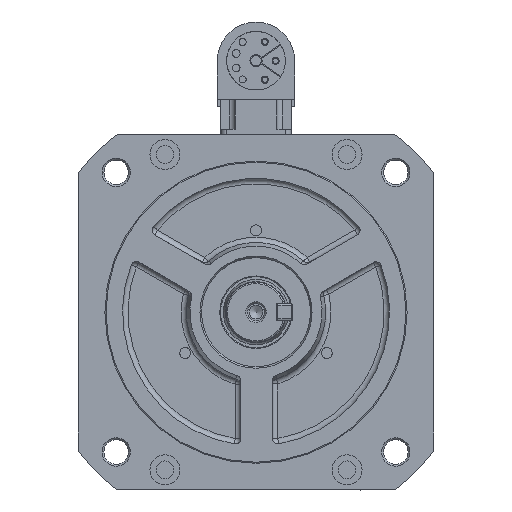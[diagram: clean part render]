
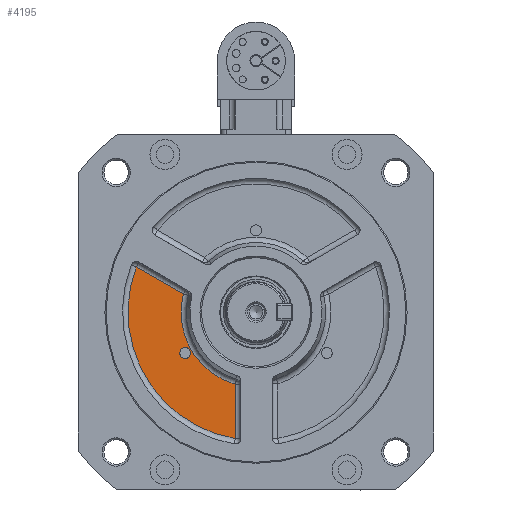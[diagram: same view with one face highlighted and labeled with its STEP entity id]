
A CAD part, left-side view. The second image highlights one B-rep face of the part: STEP entity #4195.
In plain terms, the highlighted planar face has unit normal (-1, 0, 0) as drawn and (0, -1, 0) by its records, which use the part's own axes.
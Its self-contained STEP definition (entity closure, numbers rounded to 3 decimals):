
#4195 = ADVANCED_FACE( '', ( #8616, #8617 ), #8618, .T. );
#8616 = FACE_OUTER_BOUND( '', #13198, .T. );
#8617 = FACE_BOUND( '', #13199, .T. );
#8618 = PLANE( '', #13200 );
#13198 = EDGE_LOOP( '', ( #24794, #24795, #24796, #24797 ) );
#13199 = EDGE_LOOP( '', ( #24798 ) );
#13200 = AXIS2_PLACEMENT_3D( '', #24799, #24800, #24801 );
#24794 = ORIENTED_EDGE( '', *, *, #30344, .T. );
#24795 = ORIENTED_EDGE( '', *, *, #28436, .T. );
#24796 = ORIENTED_EDGE( '', *, *, #29534, .T. );
#24797 = ORIENTED_EDGE( '', *, *, #30234, .T. );
#24798 = ORIENTED_EDGE( '', *, *, #28071, .T. );
#24799 = CARTESIAN_POINT( '', ( 0.069, -28., 0.04 ) );
#24800 = DIRECTION( '', ( 0., -1., 0. ) );
#24801 = DIRECTION( '', ( 0., 0., -1. ) );
#28071 = EDGE_CURVE( '', #34289, #34289, #34290, .T. );
#28436 = EDGE_CURVE( '', #34817, #34815, #34818, .T. );
#29534 = EDGE_CURVE( '', #34815, #36295, #36297, .T. );
#30234 = EDGE_CURVE( '', #36295, #35202, #37115, .T. );
#30344 = EDGE_CURVE( '', #35202, #34817, #37231, .T. );
#34289 = VERTEX_POINT( '', #42409 );
#34290 = CIRCLE( '', #42410, 2. );
#34815 = VERTEX_POINT( '', #43117 );
#34817 = VERTEX_POINT( '', #43119 );
#34818 = CIRCLE( '', #43120, 47. );
#35202 = VERTEX_POINT( '', #43657 );
#36295 = VERTEX_POINT( '', #45201 );
#36297 = LINE( '', #45203, #45204 );
#37115 = CIRCLE( '', #46310, 27.5 );
#37231 = LINE( '', #46466, #46467 );
#42409 = CARTESIAN_POINT( '', ( -24.249, -28., -14. ) );
#42410 = AXIS2_PLACEMENT_3D( '', #50133, #50134, #50135 );
#43117 = CARTESIAN_POINT( '', ( -7.596, -28., -46.331 ) );
#43119 = CARTESIAN_POINT( '', ( -43.922, -28., 16.587 ) );
#43120 = AXIS2_PLACEMENT_3D( '', #50666, #50667, #50668 );
#43657 = CARTESIAN_POINT( '', ( -26.687, -28., 6.637 ) );
#45201 = CARTESIAN_POINT( '', ( -7.596, -28., -26.43 ) );
#45203 = CARTESIAN_POINT( '', ( -7.596, -28., 0.04 ) );
#45204 = VECTOR( '', #52203, 1000. );
#46310 = AXIS2_PLACEMENT_3D( '', #52981, #52982, #52983 );
#46466 = CARTESIAN_POINT( '', ( -3.763, -28., -6.599 ) );
#46467 = VECTOR( '', #53054, 1000. );
#50133 = CARTESIAN_POINT( '', ( -25.981, -28., -15. ) );
#50134 = DIRECTION( '', ( 0., 1., 0. ) );
#50135 = DIRECTION( '', ( 0.866, 0., 0.5 ) );
#50666 = CARTESIAN_POINT( '', ( 0.069, -28., 0.04 ) );
#50667 = DIRECTION( '', ( 0., -1., 0. ) );
#50668 = DIRECTION( '', ( 0., 0., -1. ) );
#52203 = DIRECTION( '', ( 0., 0., 1. ) );
#52981 = CARTESIAN_POINT( '', ( 0., -28., 0. ) );
#52982 = DIRECTION( '', ( 0., 1., 0. ) );
#52983 = DIRECTION( '', ( 0., 0., -1. ) );
#53054 = DIRECTION( '', ( -0.866, 0., 0.5 ) );
